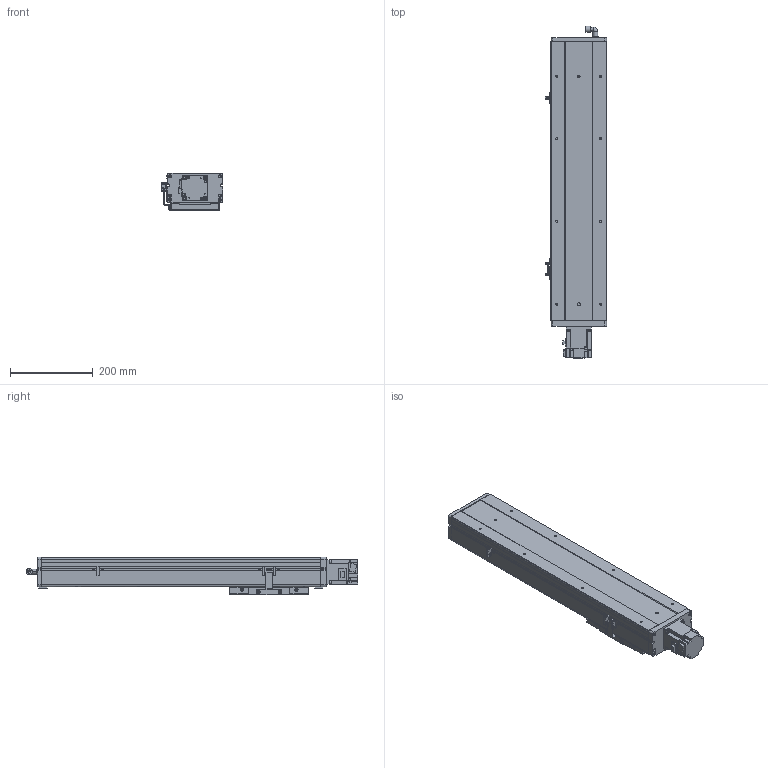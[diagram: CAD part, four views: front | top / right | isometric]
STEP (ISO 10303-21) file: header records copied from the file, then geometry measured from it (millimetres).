
FILE_DESCRIPTION (( 'STEP AP203' ), '1' );
FILE_NAME ('8.STEP', '2020-11-02T09:17:43', ( '' ), ( '' ), 'SwSTEP 2.0', 'SolidWorks 2016', '' );
FILE_SCHEMA (( 'CONFIG_CONTROL_DESIGN' ));
Length unit declared in the file: millimetre
Products named in the file (9): BCH14-BC-BL-BR-菁釱; BCH14-BC-04; BCH14-BC-M20; BCH14-BC-01; BCH14-BC-10; BCH14-BC-02; BCH14-BC-HZ; 8; BCH14-BC-03
Assembly tree (11 placements, depth 2):
  8
    BCH14-BC-BL-BR-菁釱
    BCH14-BC-01
    BCH14-BC-02
    BCH14-BC-03  x2
    BCH14-BC-04  x3
    BCH14-BC-HZ
    BCH14-BC-M20
    BCH14-BC-10
Bounding box: 148.7 x 801.53 x 91 mm (x, y, z)
Volume: 3714304.9 mm3; surface area: 727325.3 mm2
Topology: 19 solids, 19 shells, 1266 faces, 3301 edges, 2093 vertices
Faces by surface type: plane 794, cylinder 346, cone 102, bspline 10, sphere 8, torus 6
Entity records: 31922 total; most frequent: CARTESIAN_POINT 6098, DIRECTION 5173, ORIENTED_EDGE 5090, EDGE_CURVE 2545, AXIS2_PLACEMENT_3D 1726, VECTOR 1721, LINE 1721, VERTEX_POINT 1641
